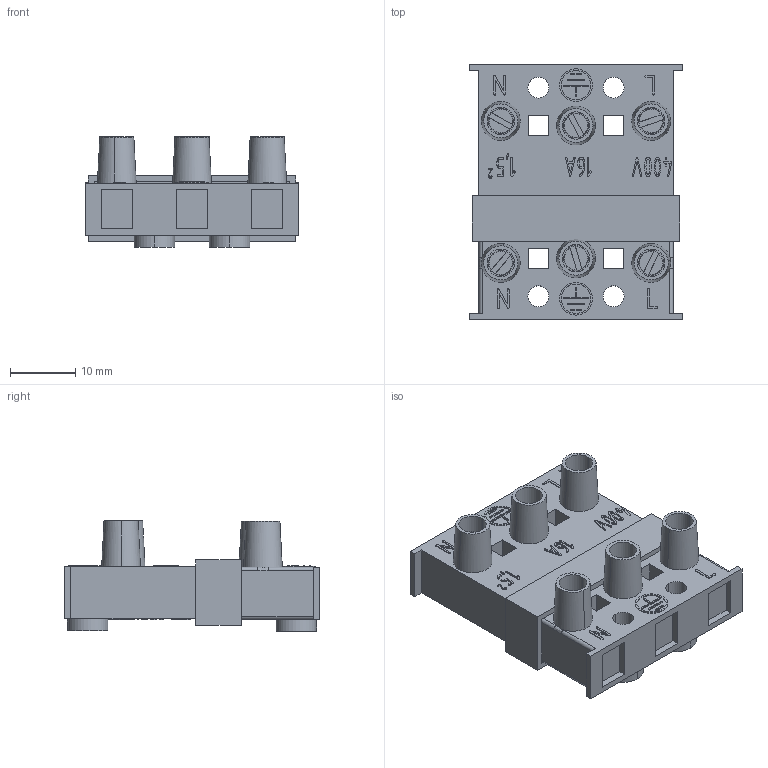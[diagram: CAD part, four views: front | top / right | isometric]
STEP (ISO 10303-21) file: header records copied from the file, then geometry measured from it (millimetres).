
FILE_DESCRIPTION((' '),'1');
FILE_NAME('009-E01-05.stp','2005-09-20 T',(' '),(' '),'STEP Interface v1.0 by CT CoreTechnologie','3D_Evolution v1.0 by CT CoreTechnologie',' ');
FILE_SCHEMA(('CONFIG_CONTROL_DESIGN'));
Length unit declared in the file: millimetre
Products named in the file (3): 009-E01-05; 009-E01-04; 009-E01-03
Assembly tree (2 placements, depth 2):
  009-E01-05
    009-E01-04
    009-E01-03
Bounding box: 32.7 x 39.1 x 16.9 mm (x, y, z)
Volume: 9423.3 mm3; surface area: 8219.8 mm2
Topology: 2 solids, 2 shells, 1052 faces, 2817 edges, 1865 vertices
Faces by surface type: plane 632, bspline 206, cylinder 193, cone 11, sphere 10
Entity records: 55314 total; most frequent: CARTESIAN_POINT 21082, ORIENTED_EDGE 5614, DIRECTION 4825, EDGE_CURVE 2807, VECTOR 1961, LINE 1961, VERTEX_POINT 1865, AXIS2_PLACEMENT_3D 1432
